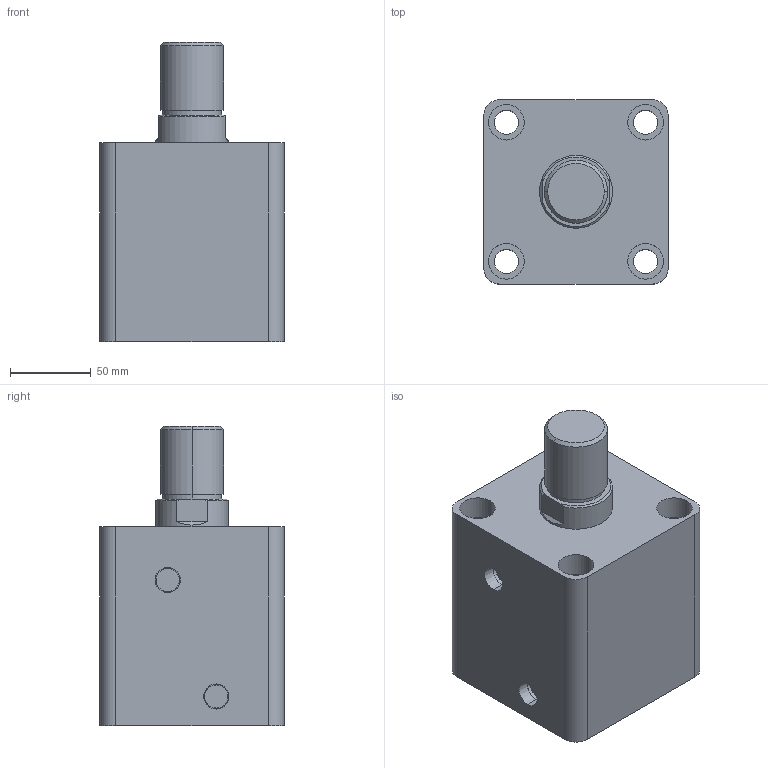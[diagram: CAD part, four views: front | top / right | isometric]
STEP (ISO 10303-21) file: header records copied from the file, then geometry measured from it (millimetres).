
FILE_DESCRIPTION (( 'STEP AP203' ), '1' );
FILE_NAME ('HTB-SD80-45W.STEP', '2019-10-07T08:25:33', ( '微软用户' ), ( '微软中国' ), 'SwSTEP 2.0', 'SolidWorks 2012', '' );
FILE_SCHEMA (( 'CONFIG_CONTROL_DESIGN' ));
Length unit declared in the file: millimetre
Products named in the file (3): HTB-SD80-45W; HTB-SD80-45W活塞杆; HTB-SD80-45掛极
Assembly tree (2 placements, depth 2):
  HTB-SD80-45W
    HTB-SD80-45掛极
    HTB-SD80-45W活塞杆
Bounding box: 114 x 114 x 185 mm (x, y, z)
Volume: 1397520.5 mm3; surface area: 172081.6 mm2
Topology: 2 solids, 2 shells, 87 faces, 190 edges, 124 vertices
Faces by surface type: cylinder 44, plane 29, cone 8, torus 6
Entity records: 2761 total; most frequent: DIRECTION 478, CARTESIAN_POINT 434, ORIENTED_EDGE 380, AXIS2_PLACEMENT_3D 204, EDGE_CURVE 190, VERTEX_POINT 124, EDGE_LOOP 112, CIRCLE 112
